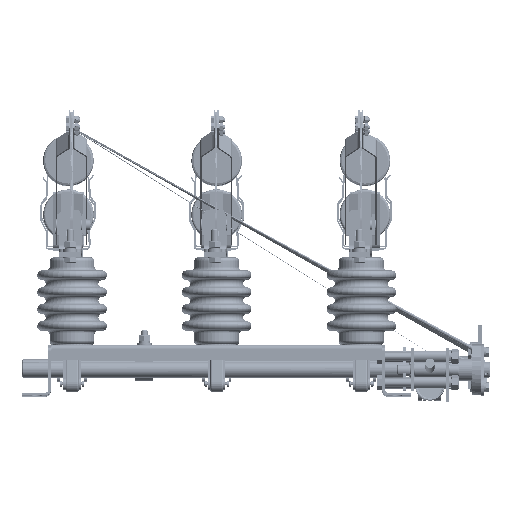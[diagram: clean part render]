
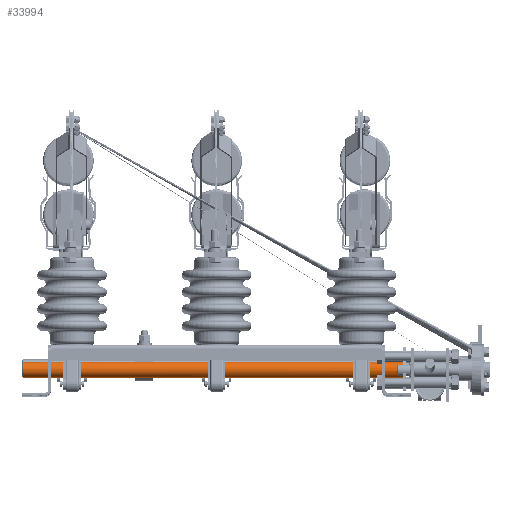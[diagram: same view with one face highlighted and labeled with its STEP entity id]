
A CAD part, top view. The second image highlights one B-rep face of the part: STEP entity #33994.
In plain terms, the highlighted cylindrical face has radius 11 mm (diameter 22 mm), a full revolution.
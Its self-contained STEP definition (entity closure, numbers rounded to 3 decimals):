
#13159 = CARTESIAN_POINT ( 'NONE',  ( 261.378, 36.004, 296.018 ) ) ;
#33994 = ADVANCED_FACE ( 'NONE', ( #100183, #49852 ), #179731, .T. ) ;
#39490 = ORIENTED_EDGE ( 'NONE', *, *, #58898, .T. ) ;
#40806 = CARTESIAN_POINT ( 'NONE',  ( 258.378, 36.004, 307.018 ) ) ;
#41860 = ORIENTED_EDGE ( 'NONE', *, *, #125951, .T. ) ;
#43184 = DIRECTION ( 'NONE',  ( -1., 0., 0. ) ) ;
#49852 = FACE_OUTER_BOUND ( 'NONE', #101645, .T. ) ;
#58898 = EDGE_CURVE ( 'NONE', #119371, #119371, #74852, .T. ) ;
#59325 = EDGE_LOOP ( 'NONE', ( #39490 ) ) ;
#74852 = CIRCLE ( 'NONE', #87952, 11. ) ;
#77211 = AXIS2_PLACEMENT_3D ( 'NONE', #101374, #220022, #118418 ) ;
#87316 = AXIS2_PLACEMENT_3D ( 'NONE', #13159, #131785, #114688 ) ;
#87952 = AXIS2_PLACEMENT_3D ( 'NONE', #144734, #43184, #161726 ) ;
#88723 = VERTEX_POINT ( 'NONE', #130015 ) ;
#100183 = FACE_OUTER_BOUND ( 'NONE', #59325, .T. ) ;
#100326 = ORIENTED_EDGE ( 'NONE', *, *, #172073, .T. ) ;
#101374 = CARTESIAN_POINT ( 'NONE',  ( -267.622, 36.004, 296.018 ) ) ;
#101519 = DIRECTION ( 'NONE',  ( 1., 0., 0. ) ) ;
#101645 = EDGE_LOOP ( 'NONE', ( #100326, #41860 ) ) ;
#114688 = DIRECTION ( 'NONE',  ( 0., 0.576, -0.817 ) ) ;
#118418 = DIRECTION ( 'NONE',  ( 0., 0.576, -0.817 ) ) ;
#119371 = VERTEX_POINT ( 'NONE', #40806 ) ;
#125951 = EDGE_CURVE ( 'NONE', #88723, #207325, #205711, .T. ) ;
#129598 = AXIS2_PLACEMENT_3D ( 'NONE', #203128, #101519, #220167 ) ;
#130015 = CARTESIAN_POINT ( 'NONE',  ( -267.622, 29.668, 305.01 ) ) ;
#131785 = DIRECTION ( 'NONE',  ( -1., 0., 0. ) ) ;
#144734 = CARTESIAN_POINT ( 'NONE',  ( 258.378, 36.004, 296.018 ) ) ;
#161726 = DIRECTION ( 'NONE',  ( 0., 0., 1. ) ) ;
#166385 = CIRCLE ( 'NONE', #77211, 11. ) ;
#172073 = EDGE_CURVE ( 'NONE', #207325, #88723, #166385, .T. ) ;
#179731 = CYLINDRICAL_SURFACE ( 'NONE', #87316, 11. ) ;
#203128 = CARTESIAN_POINT ( 'NONE',  ( -267.622, 36.004, 296.018 ) ) ;
#205711 = CIRCLE ( 'NONE', #129598, 11. ) ;
#207068 = CARTESIAN_POINT ( 'NONE',  ( -267.622, 42.34, 287.026 ) ) ;
#207325 = VERTEX_POINT ( 'NONE', #207068 ) ;
#220022 = DIRECTION ( 'NONE',  ( 1., 0., 0. ) ) ;
#220167 = DIRECTION ( 'NONE',  ( 0., -0.576, 0.817 ) ) ;
